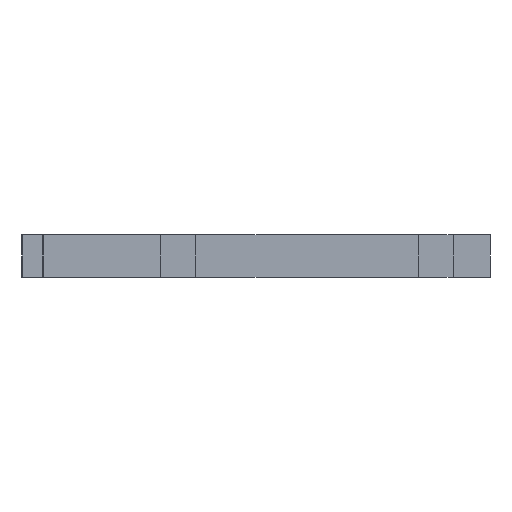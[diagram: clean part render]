
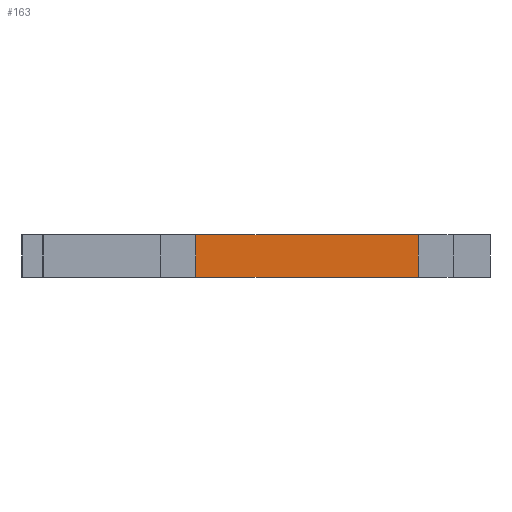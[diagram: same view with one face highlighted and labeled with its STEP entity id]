
A CAD part, left-side view. The second image highlights one B-rep face of the part: STEP entity #163.
In plain terms, the highlighted planar face has unit normal (-1, 0, 0).
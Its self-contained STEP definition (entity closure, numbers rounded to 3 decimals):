
#10 = VECTOR ( 'NONE', #658, 1000. ) ;
#93 = LINE ( 'NONE', #616, #1148 ) ;
#97 = VECTOR ( 'NONE', #221, 1000. ) ;
#157 = EDGE_CURVE ( 'NONE', #1291, #1721, #267, .T. ) ;
#163 = ADVANCED_FACE ( 'NONE', ( #632 ), #1761, .F. ) ;
#180 = LINE ( 'NONE', #463, #1676 ) ;
#221 = DIRECTION ( 'NONE',  ( 0., -1., 0. ) ) ;
#224 = DIRECTION ( 'NONE',  ( 0., 0., -1. ) ) ;
#235 = LINE ( 'NONE', #518, #10 ) ;
#265 = AXIS2_PLACEMENT_3D ( 'NONE', #650, #1615, #224 ) ;
#267 = LINE ( 'NONE', #506, #97 ) ;
#304 = ORIENTED_EDGE ( 'NONE', *, *, #157, .F. ) ;
#391 = CARTESIAN_POINT ( 'NONE',  ( -310.5, -40.5, 0. ) ) ;
#463 = CARTESIAN_POINT ( 'NONE',  ( -310.5, -92.3, 0. ) ) ;
#506 = CARTESIAN_POINT ( 'NONE',  ( -310.5, -92.3, 10. ) ) ;
#518 = CARTESIAN_POINT ( 'NONE',  ( -310.5, -92.3, 10. ) ) ;
#616 = CARTESIAN_POINT ( 'NONE',  ( -310.5, -40.5, 10. ) ) ;
#632 = FACE_OUTER_BOUND ( 'NONE', #926, .T. ) ;
#650 = CARTESIAN_POINT ( 'NONE',  ( -310.5, -92.3, 10. ) ) ;
#658 = DIRECTION ( 'NONE',  ( 0., 0., -1. ) ) ;
#769 = DIRECTION ( 'NONE',  ( 0., 0., -1. ) ) ;
#888 = DIRECTION ( 'NONE',  ( 0., -1., 0. ) ) ;
#926 = EDGE_LOOP ( 'NONE', ( #1207, #1727, #304, #1521 ) ) ;
#953 = EDGE_CURVE ( 'NONE', #1185, #1518, #180, .T. ) ;
#1064 = EDGE_CURVE ( 'NONE', #1291, #1185, #93, .T. ) ;
#1148 = VECTOR ( 'NONE', #769, 1000. ) ;
#1185 = VERTEX_POINT ( 'NONE', #391 ) ;
#1207 = ORIENTED_EDGE ( 'NONE', *, *, #953, .T. ) ;
#1291 = VERTEX_POINT ( 'NONE', #1675 ) ;
#1518 = VERTEX_POINT ( 'NONE', #1573 ) ;
#1521 = ORIENTED_EDGE ( 'NONE', *, *, #1064, .T. ) ;
#1573 = CARTESIAN_POINT ( 'NONE',  ( -310.5, -92.3, 0. ) ) ;
#1615 = DIRECTION ( 'NONE',  ( 1., 0., 0. ) ) ;
#1628 = EDGE_CURVE ( 'NONE', #1721, #1518, #235, .T. ) ;
#1675 = CARTESIAN_POINT ( 'NONE',  ( -310.5, -40.5, 10. ) ) ;
#1676 = VECTOR ( 'NONE', #888, 1000. ) ;
#1677 = CARTESIAN_POINT ( 'NONE',  ( -310.5, -92.3, 10. ) ) ;
#1721 = VERTEX_POINT ( 'NONE', #1677 ) ;
#1727 = ORIENTED_EDGE ( 'NONE', *, *, #1628, .F. ) ;
#1761 = PLANE ( 'NONE',  #265 ) ;
